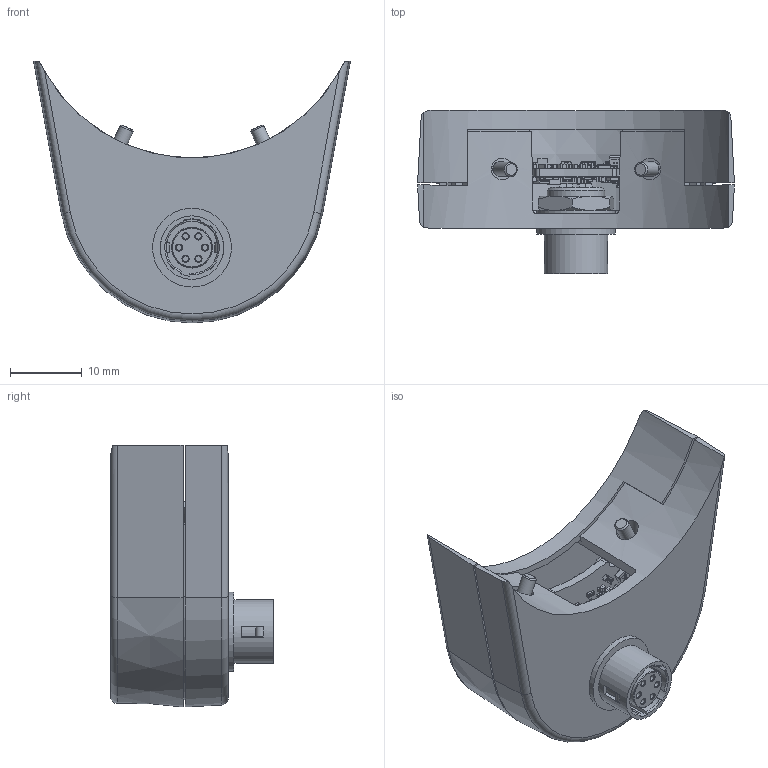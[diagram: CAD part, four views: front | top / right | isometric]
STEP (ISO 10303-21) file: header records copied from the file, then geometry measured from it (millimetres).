
FILE_DESCRIPTION(/* description */ (''),/* implementation_level */ '2;1');
FILE_NAME(/* name */ '149-862-00.stp',/* time_stamp */ '2024-03-11T12:55:43+01:00',/* author */ ('ondrej.cernek'),/* organization */ (''),/* preprocessor_version */ 'ST-DEVELOPER v19.2',/* originating_system */ 'Autodesk Inventor 2024',/* authorisation */ '');
FILE_SCHEMA (('AUTOMOTIVE_DESIGN { 1 0 10303 214 3 1 1 }'));
Products named in the file (154): 149-862-00; 134-606-00_01; 132-281-01_01; 132-281-02_132-281-02; 132-281-03_132-281-03; 134-658-00_Standard; 134-657-00_DIN912 M2x4; 146-399-00_Rev-0-07; Open CASCADE STEP translator 7.5 1; Open CASCADE STEP translator 7.5 2; Open CASCADE STEP translator 7.5 3; Open CASCADE STEP translator 7.5 4; Open CASCADE STEP translator 7.5 5; Open CASCADE STEP translator 7.5 6; Open CASCADE STEP translator 7.5 7; Open CASCADE STEP translator 7.5 8; Open CASCADE STEP translator 7.5 9; Open CASCADE STEP translator 7.5 10; Open CASCADE STEP translator 7.5 11; Open CASCADE STEP translator 7.5 12; Open CASCADE STEP translator 7.5 13; Open CASCADE STEP translator 7.5 14; Open CASCADE STEP translator 7.5 15; Open CASCADE STEP translator 7.5 16; Open CASCADE STEP translator 7.5 17; Open CASCADE STEP translator 7.5 18; Open CASCADE STEP translator 7.5 19; Open CASCADE STEP translator 7.5 20; Open CASCADE STEP translator 7.5 21; Open CASCADE STEP translator 7.5 22; Open CASCADE STEP translator 7.5 23; Open CASCADE STEP translator 7.5 24; Open CASCADE STEP translator 7.5 25; Open CASCADE STEP translator 7.5 26; Open CASCADE STEP translator 7.5 27; Open CASCADE STEP translator 7.5 28; Open CASCADE STEP translator 7.5 29; Open CASCADE STEP translator 7.5 30; Open CASCADE STEP translator 7.5 31; Open CASCADE STEP translator 7.5 32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
Assembly tree (155 placements, depth 3):
  149-862-00
    134-606-00_01
    132-281-01_01
    132-281-02_132-281-02
    132-281-03_132-281-03
    134-658-00_Standard  x2
    134-657-00_DIN912 M2x4  x2
    146-399-00_Rev-0-07
      Open CASCADE STEP translator 7.5 1
      Open CASCADE STEP translator 7.5 2
      Open CASCADE STEP translator 7.5 3
      Open CASCADE STEP translator 7.5 4
      Open CASCADE STEP translator 7.5 5
      Open CASCADE STEP translator 7.5 6
      Open CASCADE STEP translator 7.5 7
      Open CASCADE STEP translator 7.5 8
      Open CASCADE STEP translator 7.5 9
      Open CASCADE STEP translator 7.5 10
      Open CASCADE STEP translator 7.5 11
      Open CASCADE STEP translator 7.5 12
      Open CASCADE STEP translator 7.5 13
      Open CASCADE STEP translator 7.5 14
      Open CASCADE STEP translator 7.5 15
      Open CASCADE STEP translator 7.5 16
      Open CASCADE STEP translator 7.5 17
      Open CASCADE STEP translator 7.5 18
      Open CASCADE STEP translator 7.5 19
      Open CASCADE STEP translator 7.5 20
      Open CASCADE STEP translator 7.5 21
      Open CASCADE STEP translator 7.5 22
      Open CASCADE STEP translator 7.5 23
      Open CASCADE STEP translator 7.5 24
      Open CASCADE STEP translator 7.5 25
      Open CASCADE STEP translator 7.5 26
      Open CASCADE STEP translator 7.5 27
      Open CASCADE STEP translator 7.5 28
      Open CASCADE STEP translator 7.5 29
      Open CASCADE STEP translator 7.5 30
      Open CASCADE STEP translator 7.5 31
      Open CASCADE STEP translator 7.5 32
      Open CASCADE STEP translator 7.5 33
      Open CASCADE STEP translator 7.5 34
      Open CASCADE STEP translator 7.5 35
      Open CASCADE STEP translator 7.5 36
      Open CASCADE STEP translator 7.5 37
      Open CASCADE STEP translator 7.5 38
      Open CASCADE STEP translator 7.5 39
      Open CASCADE STEP translator 7.5 40
      Open CASCADE STEP translator 7.5 41
      Open CASCADE STEP translator 7.5 42
      Open CASCADE STEP translator 7.5 43
      Open CASCADE STEP translator 7.5 44
      Open CASCADE STEP translator 7.5 45
      Open CASCADE STEP translator 7.5 46
      Open CASCADE STEP translator 7.5 47
      Open CASCADE STEP translator 7.5 48
      Open CASCADE STEP translator 7.5 49
      Open CASCADE STEP translator 7.5 50
      Open CASCADE STEP translator 7.5 51
      Open CASCADE STEP translator 7.5 52
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Bounding box: 44.14 x 22.7 x 36.5 mm (x, y, z)
Volume: 7466 mm3; surface area: 11491.5 mm2
Topology: 524 solids, 524 shells, 11702 faces, 29519 edges, 18653 vertices
Faces by surface type: plane 7629, cylinder 1894, bspline 1382, sphere 674, cone 68, torus 55
Full cylindrical faces by diameter (mm): 0.036 x1, 0.037 x1, 0.043 x1, 0.071 x1, 0.085 x2, 0.098 x4, 0.122 x3, 0.146 x1, 0.15 x1, 0.25 x1, 0.5 x2, 0.7 x6, 0.8 x12, 1 x13, 1.2 x3, 1.7 x2, 1.754 x2, 1.998 x2, 2 x8, 2.5 x2, 3 x2, 4 x6, 5.6 x1, 5.7 x1, 6.6 x1, 8 x2, 8.85 x1, 11 x2
Entity records: 457035 total; most frequent: CARTESIAN_POINT 174435, ORIENTED_EDGE 57474, DIRECTION 50397, EDGE_CURVE 28737, LINE 21325, VECTOR 21325, VERTEX_POINT 18524, AXIS2_PLACEMENT_3D 14536
